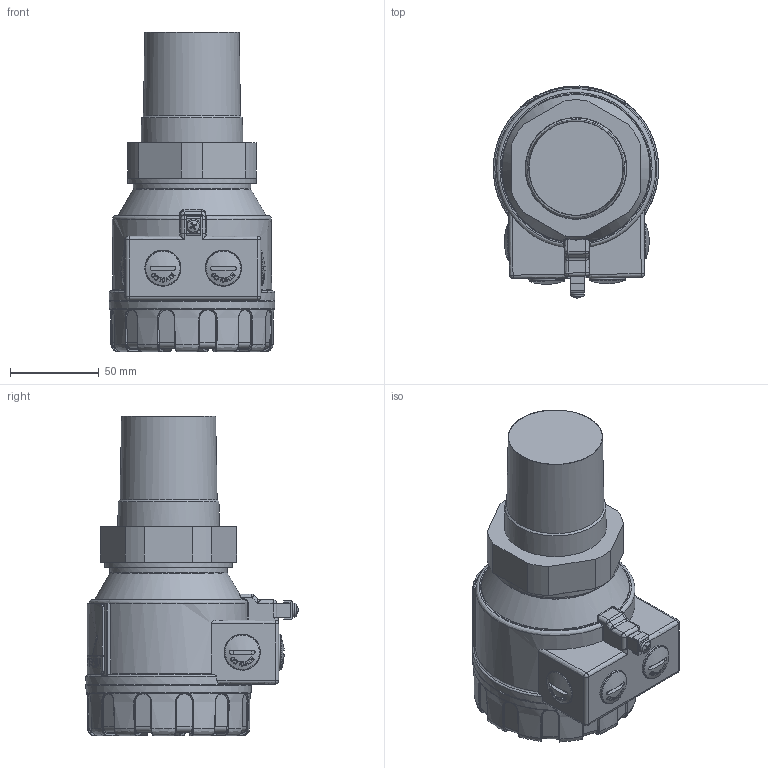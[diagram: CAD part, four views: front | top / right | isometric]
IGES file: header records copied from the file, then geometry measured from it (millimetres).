
Global section: file name: SI_380_Műház,2; native system: 2HAutodesk Inventor 2015; preprocessor: unknown; author: aantal; date: 20150306.113128; units: millimetre
Bounding box: 92.98 x 119.22 x 179.6 mm (x, y, z)
Volume: 940875.2 mm3; surface area: 100167.8 mm2
Topology: 11 solids, 11 shells, 1255 faces, 3131 edges, 1933 vertices
Faces by surface type: bspline 1255
